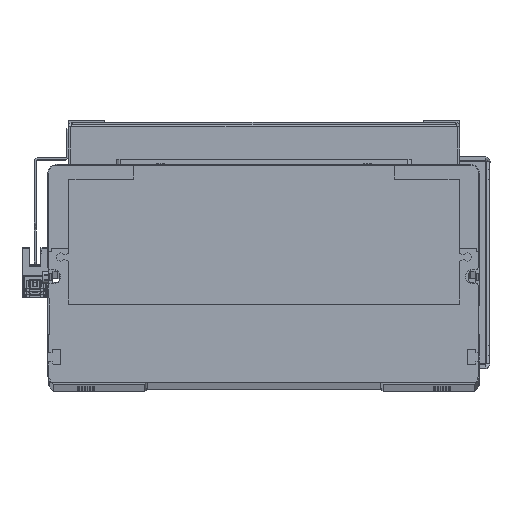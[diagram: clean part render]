
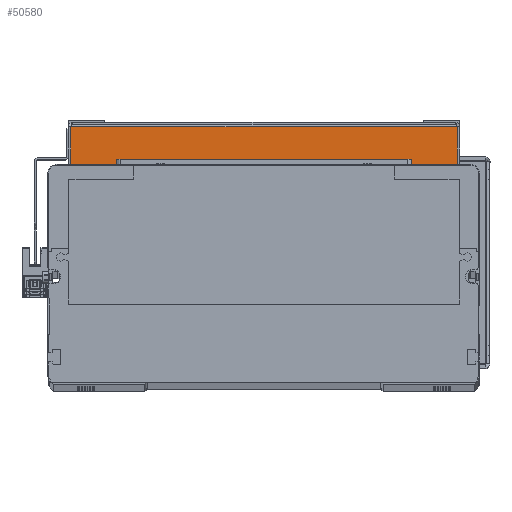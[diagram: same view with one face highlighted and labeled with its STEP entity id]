
A CAD part, top view. The second image highlights one B-rep face of the part: STEP entity #50580.
In plain terms, the highlighted planar face has unit normal (0, 0, 1) as drawn and (0, -1, 0) by its records, which use the part's own axes.
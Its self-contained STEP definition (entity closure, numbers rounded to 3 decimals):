
#953 = EDGE_CURVE ( 'NONE', #10201, #42328, #24713, .T. ) ;
#3767 = DIRECTION ( 'NONE',  ( 0., 0., -1. ) ) ;
#6258 = VECTOR ( 'NONE', #39880, 1000. ) ;
#10201 = VERTEX_POINT ( 'NONE', #25646 ) ;
#10331 = LINE ( 'NONE', #29376, #23570 ) ;
#10973 = VERTEX_POINT ( 'NONE', #48376 ) ;
#12609 = ORIENTED_EDGE ( 'NONE', *, *, #35369, .F. ) ;
#14388 = DIRECTION ( 'NONE',  ( 0., 0., -1. ) ) ;
#14662 = FACE_OUTER_BOUND ( 'NONE', #28098, .T. ) ;
#14911 = PLANE ( 'NONE',  #19823 ) ;
#18999 = CARTESIAN_POINT ( 'NONE',  ( 0., -150., 21.3 ) ) ;
#19736 = CARTESIAN_POINT ( 'NONE',  ( -98.7, -150., 20.3 ) ) ;
#19823 = AXIS2_PLACEMENT_3D ( 'NONE', #18999, #34688, #14388 ) ;
#21311 = CARTESIAN_POINT ( 'NONE',  ( 98.7, -150., 0. ) ) ;
#22011 = EDGE_CURVE ( 'NONE', #26448, #10201, #39014, .T. ) ;
#23570 = VECTOR ( 'NONE', #45055, 1000. ) ;
#24713 = LINE ( 'NONE', #28310, #6258 ) ;
#25646 = CARTESIAN_POINT ( 'NONE',  ( -98.7, -150., 0. ) ) ;
#25751 = VECTOR ( 'NONE', #49139, 1000. ) ;
#26448 = VERTEX_POINT ( 'NONE', #30096 ) ;
#28098 = EDGE_LOOP ( 'NONE', ( #44591, #49665, #33819, #12609 ) ) ;
#28310 = CARTESIAN_POINT ( 'NONE',  ( 0., -150., 0. ) ) ;
#29376 = CARTESIAN_POINT ( 'NONE',  ( 100., -150., 20.3 ) ) ;
#30096 = CARTESIAN_POINT ( 'NONE',  ( -98.7, -150., 20.3 ) ) ;
#33819 = ORIENTED_EDGE ( 'NONE', *, *, #953, .T. ) ;
#34688 = DIRECTION ( 'NONE',  ( 0., 1., 0. ) ) ;
#35369 = EDGE_CURVE ( 'NONE', #10973, #42328, #45014, .T. ) ;
#39014 = LINE ( 'NONE', #19736, #39689 ) ;
#39689 = VECTOR ( 'NONE', #3767, 1000. ) ;
#39880 = DIRECTION ( 'NONE',  ( 1., 0., 0. ) ) ;
#42328 = VERTEX_POINT ( 'NONE', #21311 ) ;
#44591 = ORIENTED_EDGE ( 'NONE', *, *, #47158, .F. ) ;
#44752 = CARTESIAN_POINT ( 'NONE',  ( 98.7, -150., 20.3 ) ) ;
#45014 = LINE ( 'NONE', #44752, #25751 ) ;
#45055 = DIRECTION ( 'NONE',  ( 1., 0., 0. ) ) ;
#47158 = EDGE_CURVE ( 'NONE', #26448, #10973, #10331, .T. ) ;
#48376 = CARTESIAN_POINT ( 'NONE',  ( 98.7, -150., 20.3 ) ) ;
#49139 = DIRECTION ( 'NONE',  ( 0., 0., -1. ) ) ;
#49665 = ORIENTED_EDGE ( 'NONE', *, *, #22011, .T. ) ;
#50580 = ADVANCED_FACE ( 'NONE', ( #14662 ), #14911, .F. ) ;
